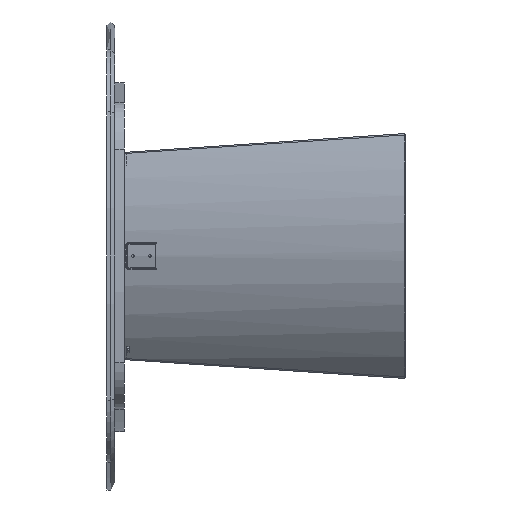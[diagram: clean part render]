
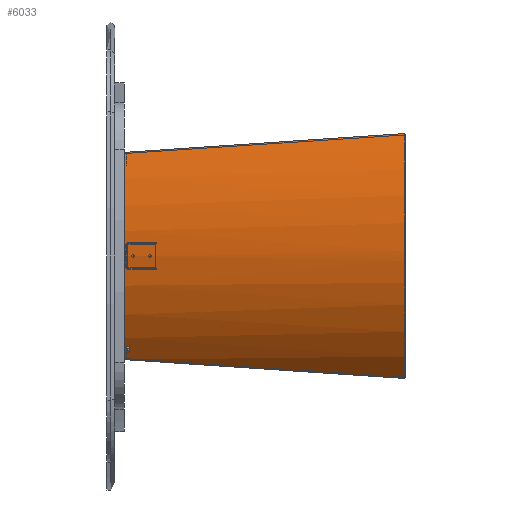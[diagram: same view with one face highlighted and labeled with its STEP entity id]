
A CAD part, left-side view. The second image highlights one B-rep face of the part: STEP entity #6033.
In plain terms, the highlighted cylindrical face has radius 455 mm (diameter 910 mm), a partial arc.
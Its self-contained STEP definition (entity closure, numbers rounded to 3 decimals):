
#118 = ORIENTED_EDGE ( 'NONE', *, *, #3667, .T. ) ;
#300 = CARTESIAN_POINT ( 'NONE',  ( 314.022, 0.906, -129.942 ) ) ;
#386 =( BOUNDED_CURVE ( )  B_SPLINE_CURVE ( 3, ( #656, #3557, #9768, #11693 ),
 .UNSPECIFIED., .F., .T. ) 
 B_SPLINE_CURVE_WITH_KNOTS ( ( 4, 4 ),
 ( 0., 0.624 ),
 .UNSPECIFIED. ) 
 CURVE ( )  GEOMETRIC_REPRESENTATION_ITEM ( )  RATIONAL_B_SPLINE_CURVE ( ( 1., 0.968, 0.968, 1. ) ) 
 REPRESENTATION_ITEM ( '' )  );
#656 = CARTESIAN_POINT ( 'NONE',  ( 0., 720., -186.04 ) ) ;
#741 = CARTESIAN_POINT ( 'NONE',  ( 265.753, 720., -274.535 ) ) ;
#787 = CARTESIAN_POINT ( 'NONE',  ( -314.022, 0.906, -129.942 ) ) ;
#826 = VERTEX_POINT ( 'NONE', #11575 ) ;
#1224 =( BOUNDED_CURVE ( )  B_SPLINE_CURVE ( 3, ( #5009, #9076, #2899, #10899 ),
 .UNSPECIFIED., .F., .T. ) 
 B_SPLINE_CURVE_WITH_KNOTS ( ( 4, 4 ),
 ( 5.659, 6.283 ),
 .UNSPECIFIED. ) 
 CURVE ( )  GEOMETRIC_REPRESENTATION_ITEM ( )  RATIONAL_B_SPLINE_CURVE ( ( 1., 0.968, 0.968, 1. ) ) 
 REPRESENTATION_ITEM ( '' )  );
#1285 = CARTESIAN_POINT ( 'NONE',  ( 0., 720., -186.04 ) ) ;
#1313 =( BOUNDED_CURVE ( )  B_SPLINE_CURVE ( 3, ( #7848, #8039, #3971, #741 ),
 .UNSPECIFIED., .F., .T. ) 
 B_SPLINE_CURVE_WITH_KNOTS ( ( 4, 4 ),
 ( 1.582, 1.719 ),
 .UNSPECIFIED. ) 
 CURVE ( )  GEOMETRIC_REPRESENTATION_ITEM ( )  RATIONAL_B_SPLINE_CURVE ( ( 1., 0.998, 0.998, 1. ) ) 
 REPRESENTATION_ITEM ( '' )  );
#1513 = ORIENTED_EDGE ( 'NONE', *, *, #8261, .T. ) ;
#1790 = EDGE_LOOP ( 'NONE', ( #1513, #118, #11786, #6060, #7521, #6378, #1960 ) ) ;
#1960 = ORIENTED_EDGE ( 'NONE', *, *, #6530, .T. ) ;
#2034 = CARTESIAN_POINT ( 'NONE',  ( -126.14, 1.243, -3.458 ) ) ;
#2050 = AXIS2_PLACEMENT_3D ( 'NONE', #2743, #9499, #8533 ) ;
#2080 = EDGE_CURVE ( 'NONE', #7027, #4772, #10258, .T. ) ;
#2221 = CARTESIAN_POINT ( 'NONE',  ( -265.753, 720., -274.535 ) ) ;
#2743 = CARTESIAN_POINT ( 'NONE',  ( 0., 690.447, -648.367 ) ) ;
#2899 = CARTESIAN_POINT ( 'NONE',  ( 96.167, 720., -186.04 ) ) ;
#3127 = CARTESIAN_POINT ( 'NONE',  ( 12.104, 1.251, -0.325 ) ) ;
#3186 = EDGE_CURVE ( 'NONE', #3585, #10217, #5275, .T. ) ;
#3557 = CARTESIAN_POINT ( 'NONE',  ( -96.167, 720., -186.04 ) ) ;
#3585 = VERTEX_POINT ( 'NONE', #9388 ) ;
#3604 = CYLINDRICAL_SURFACE ( 'NONE', #2050, 455. ) ;
#3667 = EDGE_CURVE ( 'NONE', #6305, #8838, #386, .T. ) ;
#3971 = CARTESIAN_POINT ( 'NONE',  ( 282.752, 482.074, -225.637 ) ) ;
#4047 = DIRECTION ( 'NONE',  ( -1., 0., 0. ) ) ;
#4772 = VERTEX_POINT ( 'NONE', #9937 ) ;
#5009 = CARTESIAN_POINT ( 'NONE',  ( 265.753, 720., -274.535 ) ) ;
#5275 =( BOUNDED_CURVE ( )  B_SPLINE_CURVE ( 3, ( #3127, #6158, #11258, #300 ),
 .UNSPECIFIED., .F., .T. ) 
 B_SPLINE_CURVE_WITH_KNOTS ( ( 4, 4 ),
 ( 0.027, 0.762 ),
 .UNSPECIFIED. ) 
 CURVE ( )  GEOMETRIC_REPRESENTATION_ITEM ( )  RATIONAL_B_SPLINE_CURVE ( ( 1., 0.955, 0.955, 1. ) ) 
 REPRESENTATION_ITEM ( '' )  );
#6033 = ADVANCED_FACE ( 'NONE', ( #11537 ), #3604, .T. ) ;
#6060 = ORIENTED_EDGE ( 'NONE', *, *, #2080, .T. ) ;
#6158 = CARTESIAN_POINT ( 'NONE',  ( 126.14, 1.243, -3.458 ) ) ;
#6305 = VERTEX_POINT ( 'NONE', #1285 ) ;
#6378 = ORIENTED_EDGE ( 'NONE', *, *, #3186, .T. ) ;
#6530 = EDGE_CURVE ( 'NONE', #10217, #826, #1313, .T. ) ;
#6572 = CARTESIAN_POINT ( 'NONE',  ( -265.753, 720., -274.535 ) ) ;
#6774 = CARTESIAN_POINT ( 'NONE',  ( -282.752, 482.074, -225.637 ) ) ;
#7027 = VERTEX_POINT ( 'NONE', #7833 ) ;
#7034 = DIRECTION ( 'NONE',  ( 0., -0.968, 0.25 ) ) ;
#7072 = CARTESIAN_POINT ( 'NONE',  ( -231.469, 1.123, -48.677 ) ) ;
#7521 = ORIENTED_EDGE ( 'NONE', *, *, #11902, .F. ) ;
#7545 = CARTESIAN_POINT ( 'NONE',  ( 314.022, 0.906, -129.942 ) ) ;
#7786 = CARTESIAN_POINT ( 'NONE',  ( -314.022, 0.906, -129.942 ) ) ;
#7833 = CARTESIAN_POINT ( 'NONE',  ( -314.022, 0.906, -129.942 ) ) ;
#7848 = CARTESIAN_POINT ( 'NONE',  ( 314.022, 0.906, -129.942 ) ) ;
#8039 = CARTESIAN_POINT ( 'NONE',  ( 298.867, 241.995, -177.363 ) ) ;
#8261 = EDGE_CURVE ( 'NONE', #826, #6305, #1224, .T. ) ;
#8533 = DIRECTION ( 'NONE',  ( 0., -0.25, -0.968 ) ) ;
#8838 = VERTEX_POINT ( 'NONE', #2221 ) ;
#9076 = CARTESIAN_POINT ( 'NONE',  ( 187.694, 720., -216.518 ) ) ;
#9349 =( BOUNDED_CURVE ( )  B_SPLINE_CURVE ( 3, ( #7786, #11798, #6774, #6572 ),
 .UNSPECIFIED., .F., .F. ) 
 B_SPLINE_CURVE_WITH_KNOTS ( ( 4, 4 ),
 ( 1.582, 1.719 ),
 .UNSPECIFIED. ) 
 CURVE ( )  GEOMETRIC_REPRESENTATION_ITEM ( )  RATIONAL_B_SPLINE_CURVE ( ( 1., 0.998, 0.998, 1. ) ) 
 REPRESENTATION_ITEM ( '' )  );
#9388 = CARTESIAN_POINT ( 'NONE',  ( 12.104, 1.251, -0.325 ) ) ;
#9499 = DIRECTION ( 'NONE',  ( 0., -0.968, 0.25 ) ) ;
#9768 = CARTESIAN_POINT ( 'NONE',  ( -187.694, 720., -216.518 ) ) ;
#9937 = CARTESIAN_POINT ( 'NONE',  ( -12.104, 1.251, -0.325 ) ) ;
#10217 = VERTEX_POINT ( 'NONE', #7545 ) ;
#10258 =( BOUNDED_CURVE ( )  B_SPLINE_CURVE ( 3, ( #787, #7072, #2034, #11091 ),
 .UNSPECIFIED., .F., .T. ) 
 B_SPLINE_CURVE_WITH_KNOTS ( ( 4, 4 ),
 ( 5.521, 6.257 ),
 .UNSPECIFIED. ) 
 CURVE ( )  GEOMETRIC_REPRESENTATION_ITEM ( )  RATIONAL_B_SPLINE_CURVE ( ( 1., 0.955, 0.955, 1. ) ) 
 REPRESENTATION_ITEM ( '' )  );
#10899 = CARTESIAN_POINT ( 'NONE',  ( 0., 720., -186.04 ) ) ;
#11091 = CARTESIAN_POINT ( 'NONE',  ( -12.104, 1.251, -0.325 ) ) ;
#11258 = CARTESIAN_POINT ( 'NONE',  ( 231.469, 1.123, -48.677 ) ) ;
#11537 = FACE_OUTER_BOUND ( 'NONE', #1790, .T. ) ;
#11575 = CARTESIAN_POINT ( 'NONE',  ( 265.753, 720., -274.535 ) ) ;
#11622 = EDGE_CURVE ( 'NONE', #7027, #8838, #9349, .T. ) ;
#11638 = AXIS2_PLACEMENT_3D ( 'NONE', #12056, #7034, #4047 ) ;
#11693 = CARTESIAN_POINT ( 'NONE',  ( -265.753, 720., -274.535 ) ) ;
#11786 = ORIENTED_EDGE ( 'NONE', *, *, #11622, .F. ) ;
#11798 = CARTESIAN_POINT ( 'NONE',  ( -298.867, 241.995, -177.363 ) ) ;
#11902 = EDGE_CURVE ( 'NONE', #3585, #4772, #12689, .T. ) ;
#12056 = CARTESIAN_POINT ( 'NONE',  ( 0., -112.631, -440.677 ) ) ;
#12689 = CIRCLE ( 'NONE', #11638, 455. ) ;
